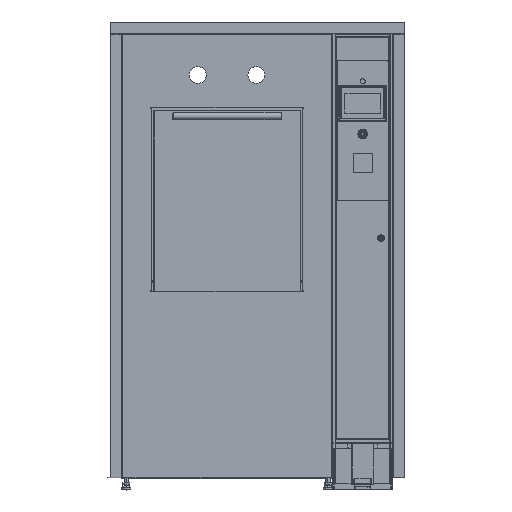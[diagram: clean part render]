
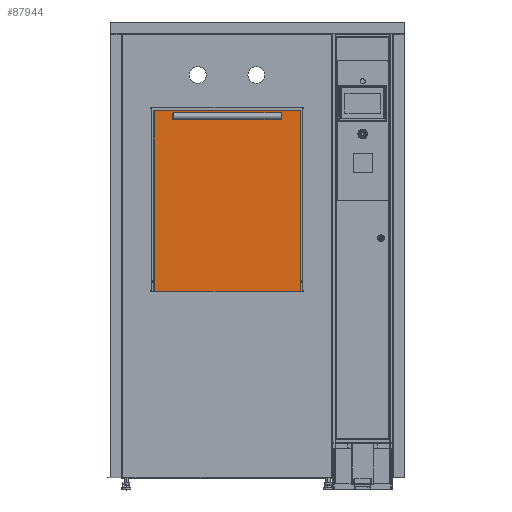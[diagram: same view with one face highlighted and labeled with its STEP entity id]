
A CAD part, top view. The second image highlights one B-rep face of the part: STEP entity #87944.
In plain terms, the highlighted planar face has unit normal (0, 0, 1).
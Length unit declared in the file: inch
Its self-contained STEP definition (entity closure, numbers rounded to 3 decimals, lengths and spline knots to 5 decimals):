
#8149 = DIRECTION ( 'NONE',  ( 1., 0., 0. ) ) ;
#8808 = VERTEX_POINT ( 'NONE', #176171 ) ;
#10169 = CARTESIAN_POINT ( 'NONE',  ( 12.5085, 16.421, 0.048 ) ) ;
#11239 = CARTESIAN_POINT ( 'NONE',  ( -12.51166, -16.421, 0.048 ) ) ;
#14028 = EDGE_CURVE ( 'NONE', #8808, #66384, #186207, .T. ) ;
#14592 = CARTESIAN_POINT ( 'NONE',  ( -12.5085, 16.42416, 0.048 ) ) ;
#16245 = AXIS2_PLACEMENT_3D ( 'NONE', #96429, #49604, #68269 ) ;
#16375 = EDGE_LOOP ( 'NONE', ( #70446, #73832, #167927, #89981 ) ) ;
#39069 = DIRECTION ( 'NONE',  ( -1., 0., 0. ) ) ;
#49604 = DIRECTION ( 'NONE',  ( 0., 0., -1. ) ) ;
#60151 = EDGE_CURVE ( 'NONE', #66384, #106604, #198447, .T. ) ;
#66384 = VERTEX_POINT ( 'NONE', #146736 ) ;
#68269 = DIRECTION ( 'NONE',  ( -1., 0., 0. ) ) ;
#70446 = ORIENTED_EDGE ( 'NONE', *, *, #60151, .T. ) ;
#70659 = EDGE_CURVE ( 'NONE', #106604, #189542, #184648, .T. ) ;
#73832 = ORIENTED_EDGE ( 'NONE', *, *, #70659, .T. ) ;
#87944 = ADVANCED_FACE ( 'NONE', ( #143195 ), #175415, .F. ) ;
#87978 = LINE ( 'NONE', #151408, #132658 ) ;
#89981 = ORIENTED_EDGE ( 'NONE', *, *, #14028, .T. ) ;
#96429 = CARTESIAN_POINT ( 'NONE',  ( 12.5875, 16.5, 0.048 ) ) ;
#106604 = VERTEX_POINT ( 'NONE', #201735 ) ;
#132658 = VECTOR ( 'NONE', #39069, 39.37008 ) ;
#143195 = FACE_OUTER_BOUND ( 'NONE', #16375, .T. ) ;
#146736 = CARTESIAN_POINT ( 'NONE',  ( -12.5085, -16.421, 0.048 ) ) ;
#151408 = CARTESIAN_POINT ( 'NONE',  ( 12.51166, 16.421, 0.048 ) ) ;
#155525 = DIRECTION ( 'NONE',  ( 0., 1., 0. ) ) ;
#167927 = ORIENTED_EDGE ( 'NONE', *, *, #176029, .T. ) ;
#171393 = VECTOR ( 'NONE', #172645, 39.37008 ) ;
#172645 = DIRECTION ( 'NONE',  ( 0., -1., 0. ) ) ;
#175415 = PLANE ( 'NONE',  #16245 ) ;
#176029 = EDGE_CURVE ( 'NONE', #189542, #8808, #87978, .T. ) ;
#176171 = CARTESIAN_POINT ( 'NONE',  ( -12.5085, 16.421, 0.048 ) ) ;
#184648 = LINE ( 'NONE', #185676, #186361 ) ;
#185676 = CARTESIAN_POINT ( 'NONE',  ( 12.5085, -16.42416, 0.048 ) ) ;
#186207 = LINE ( 'NONE', #14592, #171393 ) ;
#186361 = VECTOR ( 'NONE', #155525, 39.37008 ) ;
#189542 = VERTEX_POINT ( 'NONE', #10169 ) ;
#198447 = LINE ( 'NONE', #11239, #204524 ) ;
#201735 = CARTESIAN_POINT ( 'NONE',  ( 12.5085, -16.421, 0.048 ) ) ;
#204524 = VECTOR ( 'NONE', #8149, 39.37008 ) ;
